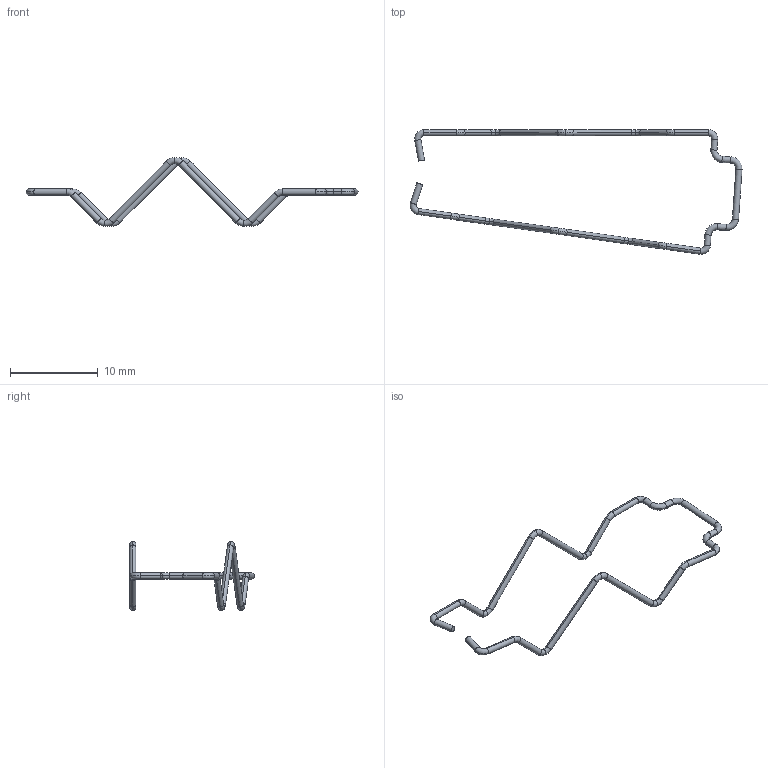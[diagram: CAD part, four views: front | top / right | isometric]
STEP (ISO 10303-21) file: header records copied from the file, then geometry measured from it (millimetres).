
FILE_DESCRIPTION (( 'STEP AP214' ), '1' );
FILE_NAME ('SDI CLIP HM(SR32M)8.383.630.01SW.STEP', '2024-11-08T01:14:30', ( 'admin' ), ( '' ), 'SwSTEP 2.0', 'SolidWorks 2022', '' );
FILE_SCHEMA (( 'AUTOMOTIVE_DESIGN' ));
Length unit declared in the file: millimetre
Products named in the file (1): SDI CLIP HM(SR32M)8.383.630.01SW
Bounding box: 37.86 x 14.2 x 7.87 mm (x, y, z)
Volume: 41.5 mm3; surface area: 238.2 mm2
Topology: 1 solids, 1 shells, 88 faces, 182 edges, 96 vertices
Faces by surface type: torus 48, cylinder 38, plane 2
Entity records: 2356 total; most frequent: DIRECTION 504, CARTESIAN_POINT 367, ORIENTED_EDGE 364, AXIS2_PLACEMENT_3D 233, EDGE_CURVE 182, CIRCLE 144, VERTEX_POINT 96, FACE_OUTER_BOUND 88
